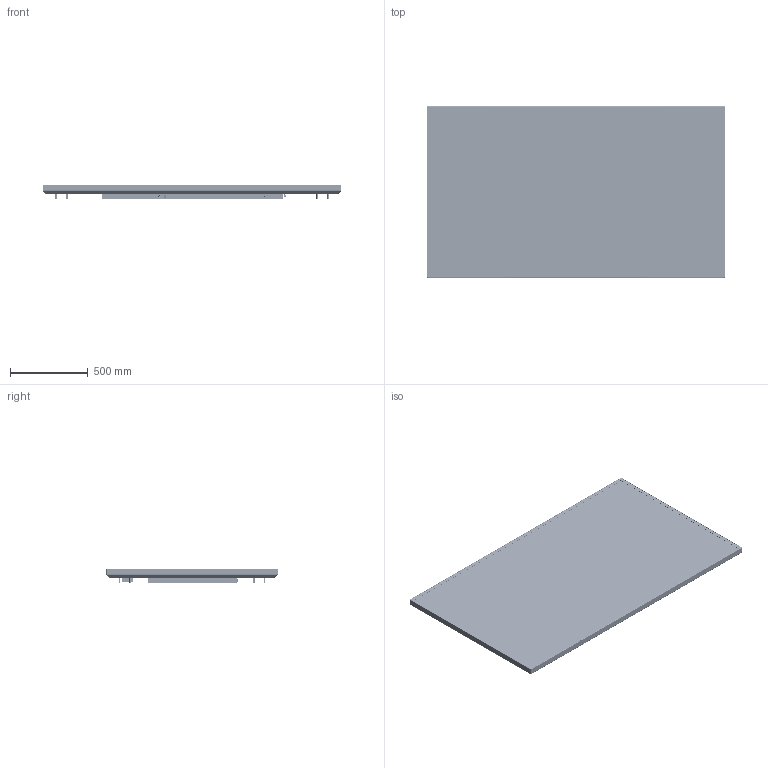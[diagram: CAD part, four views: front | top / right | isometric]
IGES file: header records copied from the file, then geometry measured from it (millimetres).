
Start section: SolidWorks IGES file using analytic representation for surfaces
Global section: file name: C:\Users\cjensen\Desktop\Hayden URX85 Standard Panel 3D.IGS; native system: SolidWorks 2019; preprocessor: SolidWorks 2019; author: cjensen; date: 210118.112615; units: millimetre
Bounding box: 1919.08 x 1100.08 x 95.09 mm (x, y, z)
Surface area: 10923115 mm2 (no closed solid volume)
Topology: 0 solids, 0 shells, 13241 faces, 154706 edges, 154204 vertices
Faces by surface type: bspline 8348, revolution 4893
